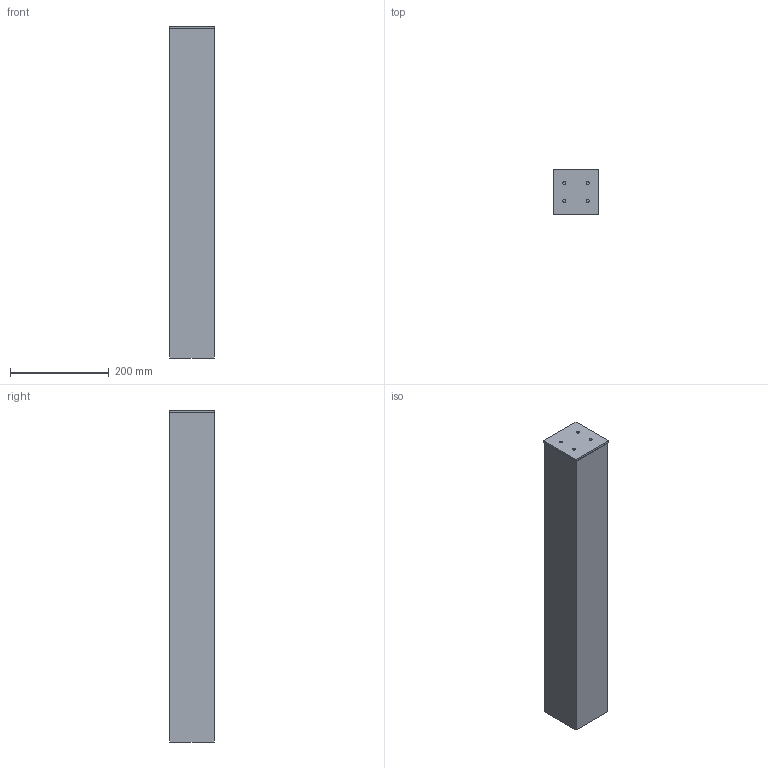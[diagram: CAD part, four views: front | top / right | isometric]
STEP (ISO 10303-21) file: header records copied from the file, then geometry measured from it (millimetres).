
FILE_DESCRIPTION( ( '' ), '1' );
FILE_NAME( 'C:/Users/dhek/Desktop/New folder/C_6/Legadrive/9243005.stp', '2018-02-20T11:49:15', ( '' ), ( '' ), ' ', ' ', ' ' );
FILE_SCHEMA( ( 'CONFIG_CONTROL_DESIGN' ) );
Length unit declared in the file: millimetre
Products named in the file (1): 1
Bounding box: 92.5 x 92.5 x 672 mm (x, y, z)
Volume: 5444130.4 mm3; surface area: 260087.8 mm2
Topology: 1 solids, 1 shells, 35 faces, 72 edges, 48 vertices
Faces by surface type: plane 19, cylinder 16
Entity records: 982 total; most frequent: DIRECTION 176, CARTESIAN_POINT 156, ORIENTED_EDGE 144, EDGE_CURVE 72, AXIS2_PLACEMENT_3D 68, VERTEX_POINT 48, EDGE_LOOP 44, LINE 40
